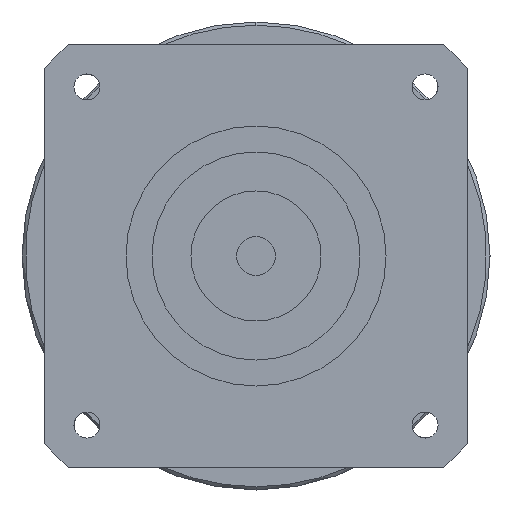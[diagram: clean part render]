
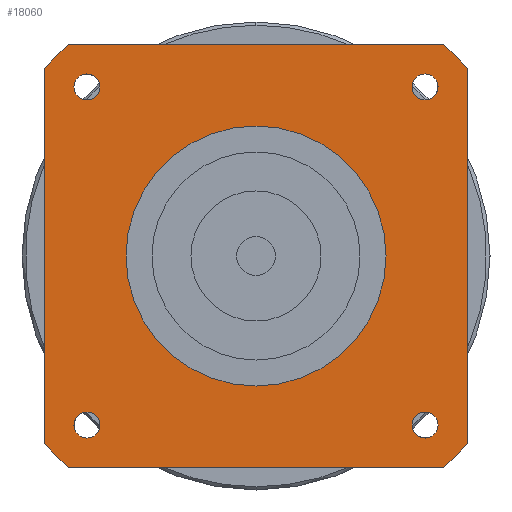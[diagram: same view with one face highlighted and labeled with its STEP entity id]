
A CAD part, left-side view. The second image highlights one B-rep face of the part: STEP entity #18060.
In plain terms, the highlighted planar face has unit normal (-1, 0, 0) as drawn and (0, 0, -1) by its records, which use the part's own axes.
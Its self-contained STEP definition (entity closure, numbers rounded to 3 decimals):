
#12210=CARTESIAN_POINT('',(28.914,32.5,-91.));
#12220=VERTEX_POINT('',#12210);
#12250=CARTESIAN_POINT('',(0.,0.,
-91.));
#12260=DIRECTION('',(0.,0.,1.));
#12270=DIRECTION('',(0.,-1.,0.));
#12280=AXIS2_PLACEMENT_3D('',#12250,#12260,#12270);
#12290=CIRCLE('',#12280,43.5);
#12300=CARTESIAN_POINT('',(32.5,28.914,-91.));
#12310=VERTEX_POINT('',#12300);
#12320=EDGE_CURVE('',#12310,#12220,#12290,.T.);
#12630=CARTESIAN_POINT('',(-32.5,28.914,-91.));
#12640=VERTEX_POINT('',#12630);
#12820=CARTESIAN_POINT('',(-32.5,-28.914,-91.));
#12830=VERTEX_POINT('',#12820);
#12860=CARTESIAN_POINT('',(-32.5,32.5,-91.));
#12870=DIRECTION('',(0.,-1.,0.));
#12880=VECTOR('',#12870,1000.);
#12890=LINE('',#12860,#12880);
#12900=EDGE_CURVE('',#12640,#12830,#12890,.T.);
#15260=CARTESIAN_POINT('',(-28.914,-32.5,-91.));
#15270=VERTEX_POINT('',#15260);
#15300=CARTESIAN_POINT('',(0.,0.,
-91.));
#15310=DIRECTION('',(0.,0.,1.));
#15320=DIRECTION('',(0.,-1.,0.));
#15330=AXIS2_PLACEMENT_3D('',#15300,#15310,#15320);
#15340=CIRCLE('',#15330,43.5);
#15350=EDGE_CURVE('',#12830,#15270,#15340,.T.);
#15840=CARTESIAN_POINT('',(28.914,-32.5,-91.));
#15850=VERTEX_POINT('',#15840);
#15930=CARTESIAN_POINT('',(32.5,-28.914,-91.));
#15940=VERTEX_POINT('',#15930);
#15970=CARTESIAN_POINT('',(0.,0.,
-91.));
#15980=DIRECTION('',(0.,0.,1.));
#15990=DIRECTION('',(0.,-1.,0.));
#16000=AXIS2_PLACEMENT_3D('',#15970,#15980,#15990);
#16010=CIRCLE('',#16000,43.5);
#16020=EDGE_CURVE('',#15850,#15940,#16010,.T.);
#16280=CARTESIAN_POINT('',(-28.914,32.5,-91.));
#16290=VERTEX_POINT('',#16280);
#16320=CARTESIAN_POINT('',(32.5,32.5,-91.));
#16330=DIRECTION('',(-1.,0.,0.));
#16340=VECTOR('',#16330,1000.);
#16350=LINE('',#16320,#16340);
#16360=EDGE_CURVE('',#12220,#16290,#16350,.T.);
#16760=CARTESIAN_POINT('',(0.,0.,
-91.));
#16770=DIRECTION('',(0.,0.,1.));
#16780=DIRECTION('',(0.,-1.,0.));
#16790=AXIS2_PLACEMENT_3D('',#16760,#16770,#16780);
#16800=CIRCLE('',#16790,43.5);
#16810=EDGE_CURVE('',#16290,#12640,#16800,.T.);
#16860=CARTESIAN_POINT('',(-32.5,32.5,-91.));
#16870=DIRECTION('',(0.,0.,1.));
#16880=DIRECTION('',(-1.,0.,0.));
#16890=AXIS2_PLACEMENT_3D('',#16860,#16870,#16880);
#16900=PLANE('',#16890);
#16910=CARTESIAN_POINT('',(26.,-26.,-91.));
#16920=DIRECTION('',(0.,0.,-1.));
#16930=DIRECTION('',(1.,0.,0.));
#16940=AXIS2_PLACEMENT_3D('',#16910,#16920,#16930);
#16950=CIRCLE('',#16940,2.);
#16960=CARTESIAN_POINT('',(28.,-26.,-91.));
#16970=VERTEX_POINT('',#16960);
#16980=CARTESIAN_POINT('',(26.,-28.,-91.));
#16990=VERTEX_POINT('',#16980);
#17000=EDGE_CURVE('',#16970,#16990,#16950,.T.);
#17010=ORIENTED_EDGE('',*,*,#17000,.F.);
#17020=CARTESIAN_POINT('',(26.,-24.,-91.));
#17030=VERTEX_POINT('',#17020);
#17040=EDGE_CURVE('',#16990,#17030,#16950,.T.);
#17050=ORIENTED_EDGE('',*,*,#17040,.F.);
#17060=EDGE_CURVE('',#17030,#16970,#16950,.T.);
#17070=ORIENTED_EDGE('',*,*,#17060,.F.);
#17080=EDGE_LOOP('',(#17070,#17050,#17010));
#17090=FACE_BOUND('',#17080,.T.);
#17100=CARTESIAN_POINT('',(26.,26.,-91.));
#17110=DIRECTION('',(0.,0.,-1.));
#17120=DIRECTION('',(0.,1.,0.));
#17130=AXIS2_PLACEMENT_3D('',#17100,#17110,#17120);
#17140=CIRCLE('',#17130,2.);
#17150=CARTESIAN_POINT('',(26.,28.,-91.));
#17160=VERTEX_POINT('',#17150);
#17170=CARTESIAN_POINT('',(28.,26.,-91.));
#17180=VERTEX_POINT('',#17170);
#17190=EDGE_CURVE('',#17160,#17180,#17140,.T.);
#17200=ORIENTED_EDGE('',*,*,#17190,.F.);
#17210=CARTESIAN_POINT('',(24.,26.,-91.));
#17220=VERTEX_POINT('',#17210);
#17230=EDGE_CURVE('',#17180,#17220,#17140,.T.);
#17240=ORIENTED_EDGE('',*,*,#17230,.F.);
#17250=EDGE_CURVE('',#17220,#17160,#17140,.T.);
#17260=ORIENTED_EDGE('',*,*,#17250,.F.);
#17270=EDGE_LOOP('',(#17260,#17240,#17200));
#17280=FACE_BOUND('',#17270,.T.);
#17290=CARTESIAN_POINT('',(-26.,26.,-91.));
#17300=DIRECTION('',(0.,0.,-1.));
#17310=DIRECTION('',(-1.,0.,0.));
#17320=AXIS2_PLACEMENT_3D('',#17290,#17300,#17310);
#17330=CIRCLE('',#17320,2.);
#17340=CARTESIAN_POINT('',(-28.,26.,-91.));
#17350=VERTEX_POINT('',#17340);
#17360=CARTESIAN_POINT('',(-26.,28.,-91.));
#17370=VERTEX_POINT('',#17360);
#17380=EDGE_CURVE('',#17350,#17370,#17330,.T.);
#17390=ORIENTED_EDGE('',*,*,#17380,.F.);
#17400=CARTESIAN_POINT('',(-26.,24.,-91.));
#17410=VERTEX_POINT('',#17400);
#17420=EDGE_CURVE('',#17370,#17410,#17330,.T.);
#17430=ORIENTED_EDGE('',*,*,#17420,.F.);
#17440=EDGE_CURVE('',#17410,#17350,#17330,.T.);
#17450=ORIENTED_EDGE('',*,*,#17440,.F.);
#17460=EDGE_LOOP('',(#17450,#17430,#17390));
#17470=FACE_BOUND('',#17460,.T.);
#17480=CARTESIAN_POINT('',(-26.,-26.,-91.));
#17490=DIRECTION('',(0.,0.,-1.));
#17500=DIRECTION('',(0.,-1.,0.));
#17510=AXIS2_PLACEMENT_3D('',#17480,#17490,#17500);
#17520=CIRCLE('',#17510,2.);
#17530=CARTESIAN_POINT('',(-26.,-28.,-91.));
#17540=VERTEX_POINT('',#17530);
#17550=CARTESIAN_POINT('',(-28.,-26.,-91.));
#17560=VERTEX_POINT('',#17550);
#17570=EDGE_CURVE('',#17540,#17560,#17520,.T.);
#17580=ORIENTED_EDGE('',*,*,#17570,.F.);
#17590=CARTESIAN_POINT('',(-24.,-26.,-91.));
#17600=VERTEX_POINT('',#17590);
#17610=EDGE_CURVE('',#17560,#17600,#17520,.T.);
#17620=ORIENTED_EDGE('',*,*,#17610,.F.);
#17630=EDGE_CURVE('',#17600,#17540,#17520,.T.);
#17640=ORIENTED_EDGE('',*,*,#17630,.F.);
#17650=EDGE_LOOP('',(#17640,#17620,#17580));
#17660=FACE_BOUND('',#17650,.T.);
#17670=ORIENTED_EDGE('',*,*,#15350,.F.);
#17680=CARTESIAN_POINT('',(-32.5,-32.5,-91.));
#17690=DIRECTION('',(1.,0.,0.));
#17700=VECTOR('',#17690,1000.);
#17710=LINE('',#17680,#17700);
#17720=EDGE_CURVE('',#15270,#15850,#17710,.T.);
#17730=ORIENTED_EDGE('',*,*,#17720,.F.);
#17740=ORIENTED_EDGE('',*,*,#16020,.F.);
#17750=CARTESIAN_POINT('',(32.5,-32.5,-91.));
#17760=DIRECTION('',(0.,1.,0.));
#17770=VECTOR('',#17760,1000.);
#17780=LINE('',#17750,#17770);
#17790=EDGE_CURVE('',#15940,#12310,#17780,.T.);
#17800=ORIENTED_EDGE('',*,*,#17790,.F.);
#17810=ORIENTED_EDGE('',*,*,#12320,.F.);
#17820=ORIENTED_EDGE('',*,*,#16360,.F.);
#17830=ORIENTED_EDGE('',*,*,#16810,.F.);
#17840=ORIENTED_EDGE('',*,*,#12900,.F.);
#17850=EDGE_LOOP('',(#17840,#17830,#17820,#17810,#17800,#17740,#17730,
#17670));
#17860=FACE_OUTER_BOUND('',#17850,.T.);
#17870=CARTESIAN_POINT('',(0.,0.,
-91.));
#17880=DIRECTION('',(0.,0.,1.));
#17890=DIRECTION('',(0.,-1.,0.));
#17900=AXIS2_PLACEMENT_3D('',#17870,#17880,#17890);
#17910=CIRCLE('',#17900,20.);
#17920=CARTESIAN_POINT('',(20.,0.,-91.));
#17930=VERTEX_POINT('',#17920);
#17940=CARTESIAN_POINT('',(-20.,0.,-91.));
#17950=VERTEX_POINT('',#17940);
#17960=EDGE_CURVE('',#17930,#17950,#17910,.T.);
#17970=ORIENTED_EDGE('',*,*,#17960,.T.);
#17980=CARTESIAN_POINT('',(0.,-20.,-91.));
#17990=VERTEX_POINT('',#17980);
#18000=EDGE_CURVE('',#17990,#17930,#17910,.T.);
#18010=ORIENTED_EDGE('',*,*,#18000,.T.);
#18020=EDGE_CURVE('',#17950,#17990,#17910,.T.);
#18030=ORIENTED_EDGE('',*,*,#18020,.T.);
#18040=EDGE_LOOP('',(#18030,#18010,#17970));
#18050=FACE_BOUND('',#18040,.T.);
#18060=ADVANCED_FACE('',(#17090,#17280,#17470,#17660,#17860,#18050),
#16900,.F.);
